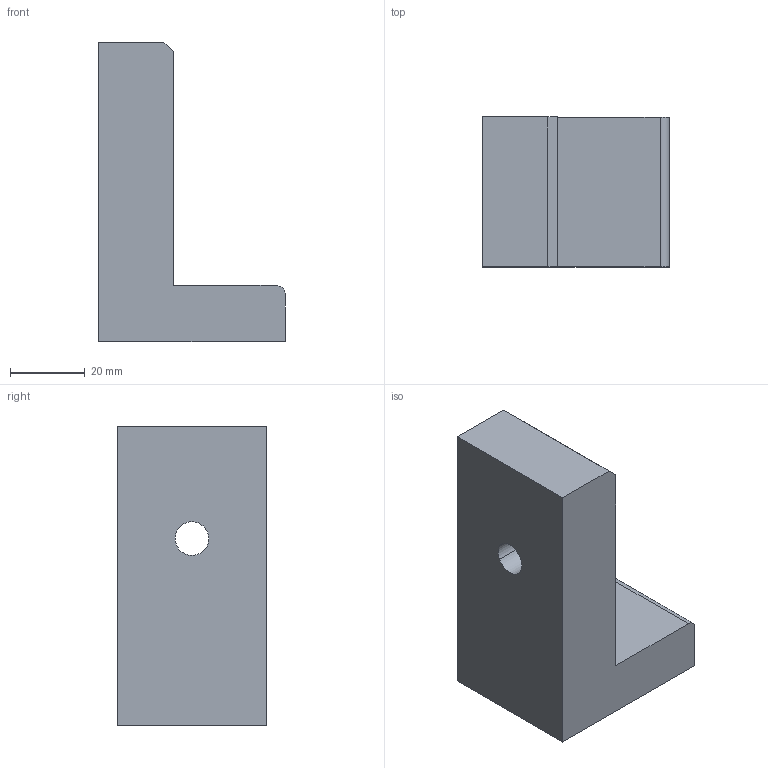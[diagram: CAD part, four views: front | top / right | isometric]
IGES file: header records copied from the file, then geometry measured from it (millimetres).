
Start section: IGES file: piece.igs
Global section: file name: zzzzzzzzzzzzzzz; native system: zzzzzzzzzzzzzzzzzzzzzzzzzzzzzzzzzzzzzzzzzzzz; preprocessor: zzzzzzzzzzzzzzzzzzzzzzzzzzz; author: zzzzz; organization: zzzzzzzzzzzzzzz; date: zzzzzzzzzzzzzzz; units: millimetre
Bounding box: 50 x 40 x 80 mm (x, y, z)
Surface area: 15330.5 mm2 (no closed solid volume)
Topology: 0 solids, 0 shells, 15 faces, 72 edges, 72 vertices
Faces by surface type: plane 10, revolution 5
